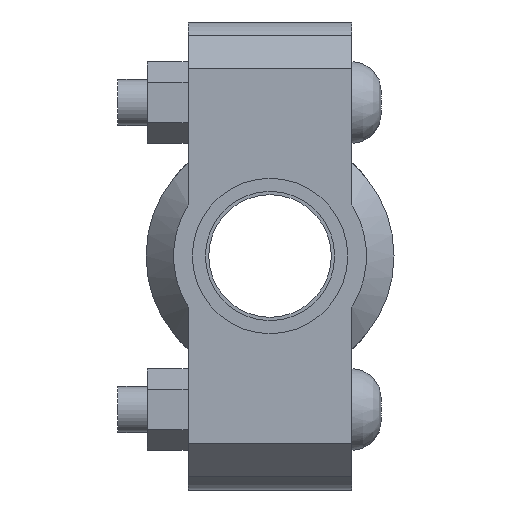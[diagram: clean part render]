
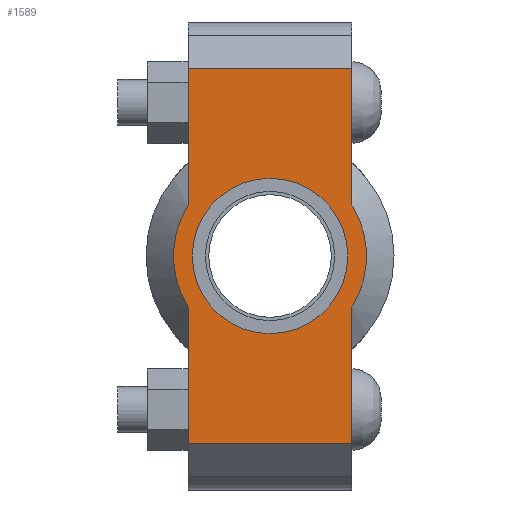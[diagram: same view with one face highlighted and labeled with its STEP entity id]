
A CAD part, left-side view. The second image highlights one B-rep face of the part: STEP entity #1589.
In plain terms, the highlighted planar face has unit normal (-1, 0, 0) as drawn and (0, 0, 1) by its records, which use the part's own axes.
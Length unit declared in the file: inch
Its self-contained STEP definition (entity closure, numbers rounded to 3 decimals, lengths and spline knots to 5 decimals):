
#144=LINE('',#2747,#241);
#159=LINE('',#2806,#256);
#167=LINE('',#2836,#264);
#169=LINE('',#2839,#266);
#170=LINE('',#2844,#267);
#171=LINE('',#2845,#268);
#241=VECTOR('',#2239,0.3937);
#256=VECTOR('',#2274,0.3937);
#264=VECTOR('',#2294,0.3937);
#266=VECTOR('',#2298,0.3937);
#267=VECTOR('',#2303,0.3937);
#268=VECTOR('',#2304,0.3937);
#332=FACE_BOUND('',#509,.T.);
#400=FACE_OUTER_BOUND('',#508,.T.);
#508=EDGE_LOOP('',(#1290,#1291,#1292,#1293,#1294,#1295,#1296,#1297));
#509=EDGE_LOOP('',(#1298));
#591=CIRCLE('',#1817,0.83);
#615=CIRCLE('',#1869,1.031);
#616=CIRCLE('',#1870,1.031);
#687=VERTEX_POINT('',#2573);
#728=VERTEX_POINT('',#2744);
#729=VERTEX_POINT('',#2746);
#750=VERTEX_POINT('',#2801);
#751=VERTEX_POINT('',#2805);
#760=VERTEX_POINT('',#2831);
#761=VERTEX_POINT('',#2835);
#762=VERTEX_POINT('',#2841);
#763=VERTEX_POINT('',#2843);
#851=EDGE_CURVE('',#687,#687,#591,.T.);
#908=EDGE_CURVE('',#729,#728,#144,.T.);
#933=EDGE_CURVE('',#751,#750,#159,.T.);
#946=EDGE_CURVE('',#761,#760,#167,.T.);
#948=EDGE_CURVE('',#761,#728,#169,.T.);
#949=EDGE_CURVE('',#760,#762,#615,.T.);
#950=EDGE_CURVE('',#762,#763,#170,.T.);
#951=EDGE_CURVE('',#751,#763,#171,.T.);
#952=EDGE_CURVE('',#750,#729,#616,.T.);
#1290=ORIENTED_EDGE('',*,*,#948,.F.);
#1291=ORIENTED_EDGE('',*,*,#946,.T.);
#1292=ORIENTED_EDGE('',*,*,#949,.T.);
#1293=ORIENTED_EDGE('',*,*,#950,.T.);
#1294=ORIENTED_EDGE('',*,*,#951,.F.);
#1295=ORIENTED_EDGE('',*,*,#933,.T.);
#1296=ORIENTED_EDGE('',*,*,#952,.T.);
#1297=ORIENTED_EDGE('',*,*,#908,.T.);
#1298=ORIENTED_EDGE('',*,*,#851,.T.);
#1429=PLANE('',#1868);
#1589=ADVANCED_FACE('',(#400,#332),#1429,.T.);
#1817=AXIS2_PLACEMENT_3D('',#2575,#2129,#2130);
#1868=AXIS2_PLACEMENT_3D('',#2840,#2299,#2300);
#1869=AXIS2_PLACEMENT_3D('',#2842,#2301,#2302);
#1870=AXIS2_PLACEMENT_3D('',#2846,#2305,#2306);
#2129=DIRECTION('center_axis',(0.,0.,-1.));
#2130=DIRECTION('ref_axis',(-1.,0.,0.));
#2239=DIRECTION('',(-1.,0.,0.));
#2274=DIRECTION('',(-1.,0.,0.));
#2294=DIRECTION('',(1.,0.,0.));
#2298=DIRECTION('',(0.,1.,0.));
#2299=DIRECTION('center_axis',(0.,0.,1.));
#2300=DIRECTION('ref_axis',(1.,0.,0.));
#2301=DIRECTION('center_axis',(0.,0.,1.));
#2302=DIRECTION('ref_axis',(-1.,0.,0.));
#2303=DIRECTION('',(1.,0.,0.));
#2304=DIRECTION('',(0.,-1.,0.));
#2305=DIRECTION('center_axis',(0.,0.,1.));
#2306=DIRECTION('ref_axis',(-1.,0.,0.));
#2573=CARTESIAN_POINT('',(0.83,0.,0.94));
#2575=CARTESIAN_POINT('Origin',(0.,0.,0.94));
#2744=CARTESIAN_POINT('',(-2.,0.875,0.94));
#2746=CARTESIAN_POINT('',(-0.54529,0.875,0.94));
#2747=CARTESIAN_POINT('',(2.5,0.875,0.94));
#2801=CARTESIAN_POINT('',(0.54529,0.875,0.94));
#2805=CARTESIAN_POINT('',(2.,0.875,0.94));
#2806=CARTESIAN_POINT('',(2.5,0.875,0.94));
#2831=CARTESIAN_POINT('',(-0.54529,-0.875,0.94));
#2835=CARTESIAN_POINT('',(-2.,-0.875,0.94));
#2836=CARTESIAN_POINT('',(-2.5,-0.875,0.94));
#2839=CARTESIAN_POINT('',(-2.,0.4375,0.94));
#2840=CARTESIAN_POINT('Origin',(0.,0.,
0.94));
#2841=CARTESIAN_POINT('',(0.54529,-0.875,0.94));
#2842=CARTESIAN_POINT('Origin',(0.,0.,0.94));
#2843=CARTESIAN_POINT('',(2.,-0.875,0.94));
#2844=CARTESIAN_POINT('',(-2.5,-0.875,0.94));
#2845=CARTESIAN_POINT('',(2.,-0.4375,0.94));
#2846=CARTESIAN_POINT('Origin',(0.,0.,0.94));
